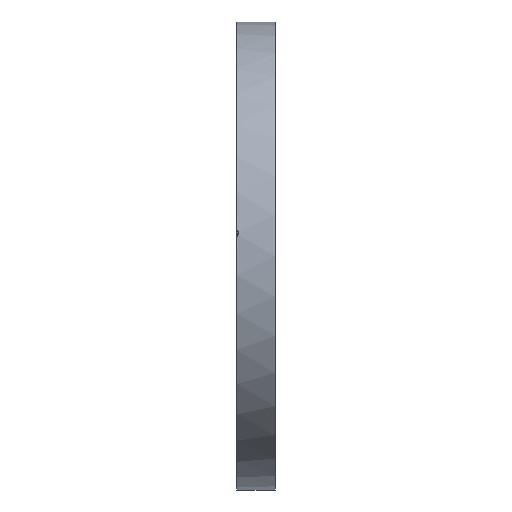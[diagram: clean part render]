
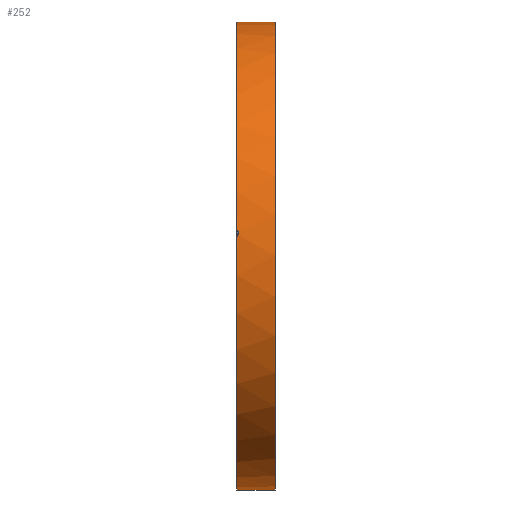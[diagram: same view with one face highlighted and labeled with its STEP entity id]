
A CAD part, left-side view. The second image highlights one B-rep face of the part: STEP entity #252.
In plain terms, the highlighted cylindrical face has radius 152.5 mm (diameter 305 mm), a partial arc.
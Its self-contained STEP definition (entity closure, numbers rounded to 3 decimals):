
#15 = CARTESIAN_POINT ( 'NONE',  ( -151.546, 24.842, 17.031 ) ) ;
#23 = EDGE_CURVE ( 'NONE', #2379, #1443, #904, .T. ) ;
#33 = CARTESIAN_POINT ( 'NONE',  ( -151.563, 24.701, 16.876 ) ) ;
#51 = CARTESIAN_POINT ( 'NONE',  ( -151.914, 24.454, 13.354 ) ) ;
#105 = DIRECTION ( 'NONE',  ( 0., 0., 1. ) ) ;
#121 = CARTESIAN_POINT ( 'NONE',  ( 0., 0., 152.5 ) ) ;
#174 = ORIENTED_EDGE ( 'NONE', *, *, #2627, .F. ) ;
#210 = DIRECTION ( 'NONE',  ( 0., 1., 0. ) ) ;
#252 = ADVANCED_FACE ( 'NONE', ( #1412 ), #918, .T. ) ;
#263 = CARTESIAN_POINT ( 'NONE',  ( -151.745, 24., 15.156 ) ) ;
#293 = CARTESIAN_POINT ( 'NONE',  ( -151.944, 24.701, 13.017 ) ) ;
#315 = CARTESIAN_POINT ( 'NONE',  ( 0., 25., 0. ) ) ;
#328 = VERTEX_POINT ( 'NONE', #527 ) ;
#412 = DIRECTION ( 'NONE',  ( 0., 1., 0. ) ) ;
#425 = DIRECTION ( 'NONE',  ( 0., 1., 0. ) ) ;
#443 = EDGE_LOOP ( 'NONE', ( #2683, #1855, #2143, #1274, #174, #1581 ) ) ;
#482 = EDGE_CURVE ( 'NONE', #2379, #2230, #2770, .T. ) ;
#527 = CARTESIAN_POINT ( 'NONE',  ( 0., 25., 152.5 ) ) ;
#593 = CARTESIAN_POINT ( 'NONE',  ( 0., 0., -152.5 ) ) ;
#623 = B_SPLINE_CURVE_WITH_KNOTS ( 'NONE', 3,
 ( #1514, #1035, #293, #51, #2011, #2964, #2993, #2723, #1970, #263, #1022, #1999, #2460, #2219, #1061, #33, #15, #2951 ),
 .UNSPECIFIED., .F., .F.,
 ( 4, 2, 2, 2, 2, 2, 2, 2, 4 ),
 ( 0., 0.001, 0.001, 0.002, 0.003, 0.003, 0.004, 0.004, 0.005 ),
 .UNSPECIFIED. ) ;
#656 = AXIS2_PLACEMENT_3D ( 'NONE', #1368, #1316, #105 ) ;
#734 = CARTESIAN_POINT ( 'NONE',  ( 0., 25., 0. ) ) ;
#896 = DIRECTION ( 'NONE',  ( 0., 0., 1. ) ) ;
#904 = CIRCLE ( 'NONE', #656, 152.5 ) ;
#918 = CYLINDRICAL_SURFACE ( 'NONE', #1058, 152.5 ) ;
#1022 = CARTESIAN_POINT ( 'NONE',  ( -151.724, 24.022, 15.366 ) ) ;
#1035 = CARTESIAN_POINT ( 'NONE',  ( -151.957, 24.842, 12.862 ) ) ;
#1058 = AXIS2_PLACEMENT_3D ( 'NONE', #2356, #425, #896 ) ;
#1061 = CARTESIAN_POINT ( 'NONE',  ( -151.601, 24.454, 16.54 ) ) ;
#1158 = AXIS2_PLACEMENT_3D ( 'NONE', #734, #1902, #1930 ) ;
#1174 = AXIS2_PLACEMENT_3D ( 'NONE', #315, #1264, #1734 ) ;
#1252 = VERTEX_POINT ( 'NONE', #2167 ) ;
#1264 = DIRECTION ( 'NONE',  ( 0., 1., 0. ) ) ;
#1274 = ORIENTED_EDGE ( 'NONE', *, *, #3075, .F. ) ;
#1316 = DIRECTION ( 'NONE',  ( 0., 1., 0. ) ) ;
#1368 = CARTESIAN_POINT ( 'NONE',  ( 0., 0., 0. ) ) ;
#1412 = FACE_OUTER_BOUND ( 'NONE', #443, .T. ) ;
#1443 = VERTEX_POINT ( 'NONE', #121 ) ;
#1514 = CARTESIAN_POINT ( 'NONE',  ( -151.969, 25., 12.721 ) ) ;
#1581 = ORIENTED_EDGE ( 'NONE', *, *, #2061, .F. ) ;
#1705 = CIRCLE ( 'NONE', #1158, 152.5 ) ;
#1734 = DIRECTION ( 'NONE',  ( 0., 0., 1. ) ) ;
#1855 = ORIENTED_EDGE ( 'NONE', *, *, #23, .T. ) ;
#1880 = CARTESIAN_POINT ( 'NONE',  ( -151.969, 25., 12.721 ) ) ;
#1902 = DIRECTION ( 'NONE',  ( 0., 1., 0. ) ) ;
#1930 = DIRECTION ( 'NONE',  ( 0., 0., 1. ) ) ;
#1967 = VECTOR ( 'NONE', #210, 1000. ) ;
#1970 = CARTESIAN_POINT ( 'NONE',  ( -151.786, 24., 14.739 ) ) ;
#1999 = CARTESIAN_POINT ( 'NONE',  ( -151.682, 24.11, 15.777 ) ) ;
#2011 = CARTESIAN_POINT ( 'NONE',  ( -151.898, 24.347, 13.538 ) ) ;
#2061 = EDGE_CURVE ( 'NONE', #2230, #2314, #1705, .T. ) ;
#2140 = CIRCLE ( 'NONE', #1174, 152.5 ) ;
#2143 = ORIENTED_EDGE ( 'NONE', *, *, #2154, .T. ) ;
#2154 = EDGE_CURVE ( 'NONE', #1443, #328, #2403, .T. ) ;
#2167 = CARTESIAN_POINT ( 'NONE',  ( -151.53, 25., 17.171 ) ) ;
#2219 = CARTESIAN_POINT ( 'NONE',  ( -151.621, 24.347, 16.356 ) ) ;
#2230 = VERTEX_POINT ( 'NONE', #2957 ) ;
#2314 = VERTEX_POINT ( 'NONE', #1880 ) ;
#2356 = CARTESIAN_POINT ( 'NONE',  ( 0., 0., 0. ) ) ;
#2379 = VERTEX_POINT ( 'NONE', #2812 ) ;
#2403 = LINE ( 'NONE', #2672, #1967 ) ;
#2460 = CARTESIAN_POINT ( 'NONE',  ( -151.661, 24.175, 15.974 ) ) ;
#2627 = EDGE_CURVE ( 'NONE', #2314, #1252, #623, .T. ) ;
#2672 = CARTESIAN_POINT ( 'NONE',  ( 0., 0., 152.5 ) ) ;
#2683 = ORIENTED_EDGE ( 'NONE', *, *, #482, .F. ) ;
#2723 = CARTESIAN_POINT ( 'NONE',  ( -151.806, 24.022, 14.529 ) ) ;
#2770 = LINE ( 'NONE', #593, #3161 ) ;
#2812 = CARTESIAN_POINT ( 'NONE',  ( 0., 0., -152.5 ) ) ;
#2951 = CARTESIAN_POINT ( 'NONE',  ( -151.53, 25., 17.171 ) ) ;
#2957 = CARTESIAN_POINT ( 'NONE',  ( 0., 25., -152.5 ) ) ;
#2964 = CARTESIAN_POINT ( 'NONE',  ( -151.863, 24.175, 13.92 ) ) ;
#2993 = CARTESIAN_POINT ( 'NONE',  ( -151.845, 24.11, 14.118 ) ) ;
#3075 = EDGE_CURVE ( 'NONE', #1252, #328, #2140, .T. ) ;
#3161 = VECTOR ( 'NONE', #412, 1000. ) ;
